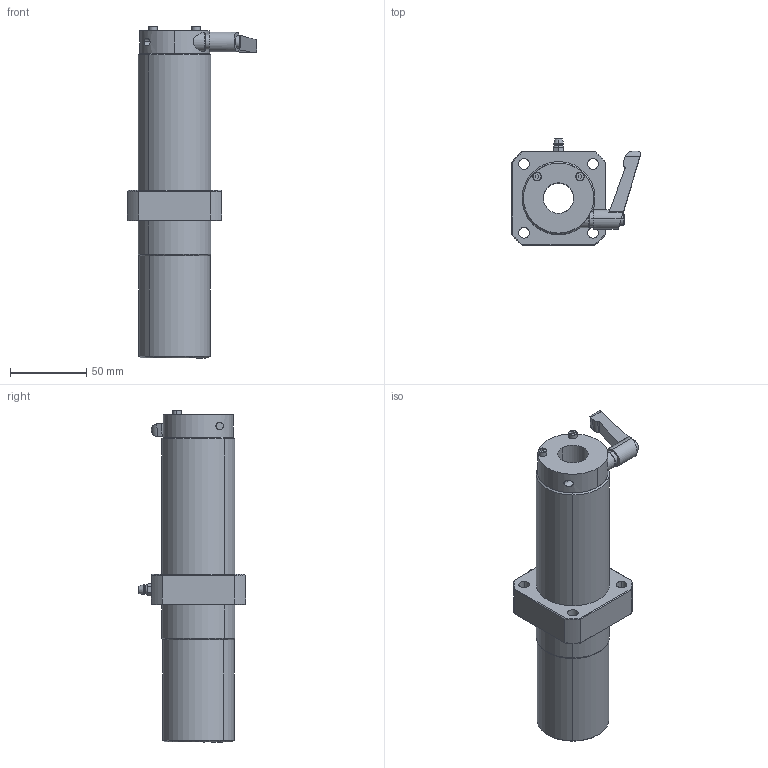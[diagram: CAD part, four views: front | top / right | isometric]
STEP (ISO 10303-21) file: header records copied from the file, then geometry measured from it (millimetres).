
FILE_DESCRIPTION (( 'STEP AP214' ), '1' );
FILE_NAME ('LFWLC20-CS.STEP', '2023-06-27T02:51:30', ( '' ), ( '' ), 'SwSTEP 2.0', 'SolidWorks 2019', '' );
FILE_SCHEMA (( 'AUTOMOTIVE_DESIGN' ));
Length unit declared in the file: millimetre
Products named in the file (3): LFWLC20-CS; “ÁSCK2015SS-S3.4; LFWLC20
Assembly tree (2 placements, depth 2):
  LFWLC20-CS
    LFWLC20
    “ÁSCK2015SS-S3.4
Bounding box: 84.9 x 70.4 x 218 mm (x, y, z)
Volume: 352152.6 mm3; surface area: 67422.7 mm2
Topology: 3 solids, 9 shells, 262 faces, 627 edges, 391 vertices
Faces by surface type: cylinder 87, plane 78, bspline 47, cone 38, torus 8, sphere 4
Entity records: 11236 total; most frequent: CARTESIAN_POINT 2439, DIRECTION 1305, ORIENTED_EDGE 1250, EDGE_CURVE 625, AXIS2_PLACEMENT_3D 538, VERTEX_POINT 390, CIRCLE 318, EDGE_LOOP 311
